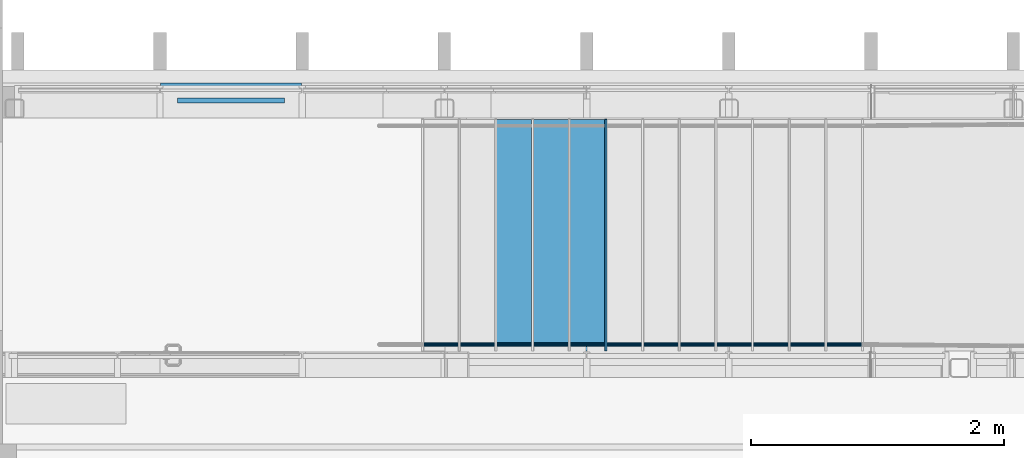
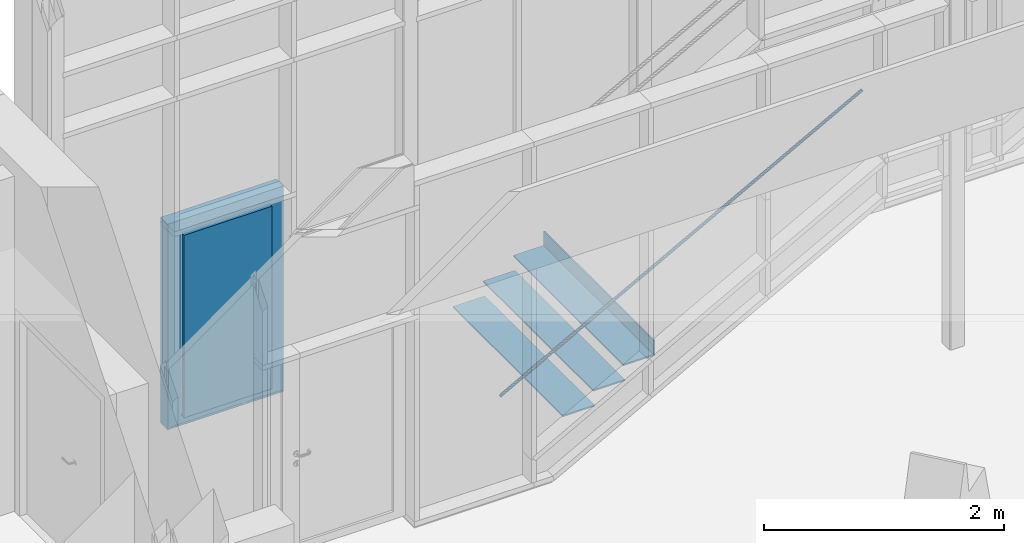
# One storey, part 189 of 301: 7 building element parts, 4 elements without a shape of their own.
"""IFC2X3 building model written with IfcOpenShell, lengths in millimetres."""

from ifc_helpers import new_model, entity, si_unit, converted_unit, derived_unit, money_unit, direction, frame, origin_with_axes, place, context, subcontext, project, spatial, open_shell, faceted_brep, surface_model, material, type_object, element, aggregate, save


model = new_model("IFC2X3")

# Units and contexts
model_context = context("Model", 3, precision=0.01, world=origin_with_axes(), true_north=direction((0.0, 1.0)))
body_context = subcontext(model_context, "Body", "Model", "MODEL_VIEW")
ifc_project = project(units=[si_unit("LENGTHUNIT", "METRE", prefix="MILLI"), si_unit("AREAUNIT", "SQUARE_METRE"), si_unit("VOLUMEUNIT", "CUBIC_METRE"), converted_unit("PLANEANGLEUNIT", "DEGREE", entity("IfcPlaneAngleMeasure", 0.0174532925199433), si_unit("PLANEANGLEUNIT", "RADIAN"), dimensions=[0, 0, 0, 0, 0, 0, 0]), money_unit("EUR"), converted_unit("TIMEUNIT", "Year", entity("IfcTimeMeasure", 31557600.0), si_unit("TIMEUNIT", "SECOND"), dimensions=[0, 0, 1, 0, 0, 0, 0]), si_unit("MASSUNIT", "GRAM", prefix="KILO"), si_unit("THERMODYNAMICTEMPERATUREUNIT", "DEGREE_CELSIUS"), si_unit("LUMINOUSINTENSITYUNIT", "LUMEN"), si_unit("ENERGYUNIT", "JOULE", prefix="MEGA"), derived_unit("THERMALCONDUCTANCEUNIT", [(si_unit("POWERUNIT", "WATT"), 1), (si_unit("LENGTHUNIT", "METRE"), -1), (si_unit("THERMODYNAMICTEMPERATUREUNIT", "KELVIN"), -1)]), derived_unit("SPECIFICHEATCAPACITYUNIT", [(si_unit("ENERGYUNIT", "JOULE"), 1), (si_unit("MASSUNIT", "GRAM", prefix="KILO"), -1), (si_unit("THERMODYNAMICTEMPERATUREUNIT", "KELVIN"), -1)]), derived_unit("MASSDENSITYUNIT", [(si_unit("MASSUNIT", "GRAM", prefix="KILO"), 1), (si_unit("VOLUMEUNIT", "CUBIC_METRE"), -1)])], contexts=[model_context])

# Site, building, storey
site_placement = place(None, frame((0.0, 0.0, 8650.0), z_axis=(0.0, 0.0, 1.0), x_axis=(1.0, 0.0, 0.0)))
site = spatial("IfcSite", under=ifc_project, at=site_placement, Name="43301:001:0844", CompositionType="ELEMENT")
building_placement = place(site_placement, origin_with_axes())
building = spatial("IfcBuilding", under=site, at=building_placement, Name="Kuressaare Ametikooli tuulikute mehaanikute õppekorpus", CompositionType="ELEMENT")
storey_placement = place(building_placement, origin_with_axes())
storey = spatial("IfcBuildingStorey", under=building, at=storey_placement, Name="1.korrus", CompositionType="ELEMENT", Elevation=0.0)

# Curtain wall, door, building element parts
curtain_wall_type = type_object("IfcCurtainWallType", Name="Curtain Wall Type", PredefinedType="NOTDEFINED")
curtain_wall_placement = place(storey_placement, frame((116704.6026822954, 28579.57374875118, 35.00000000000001), z_axis=(0.0, 0.0, 1.0), x_axis=(1.0, 0.0, 0.0)))
curtain_wall = element("IfcCurtainWall", 1, at=curtain_wall_placement, inside=storey, type_object=curtain_wall_type, Name="KF-1.1")
door_style = type_object("IfcDoorStyle", Name="1115 x 2090 x -120", ConstructionType="NOTDEFINED", OperationType="SINGLE_SWING_LEFT", ParameterTakesPrecedence=False, Sizeable=False)
door_placement = place(curtain_wall_placement, frame((-11250.0, 0.0, 1049.999979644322), z_axis=(0.0, 0.0, 1.0), x_axis=(1.0, 0.0, 0.0)))
door = element("IfcDoor", 2, at=door_placement, type_object=door_style, Name="AVU10x23,EI30", OverallHeight=2050.0, OverallWidth=1075.0)
aggregate(curtain_wall, [door])
ifc_material_1 = material(Name="Klaas")
building_element_part_1_placement = place(door_placement, origin_with_axes())
building_element_part_1 = element("IfcBuildingElementPart", 3, at=building_element_part_1_placement, material=ifc_material_1, Name="Klaas", context=body_context, shape_type="Brep", body=[
    faceted_brep([(-422.500009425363, -100.0000000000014, -944.999989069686), (-422.500009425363, -59.99999999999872, -944.999989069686), (422.4999920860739, -59.99999999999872, -944.999989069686), (422.4999920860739, -100.0000000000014, -944.999989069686), (-422.500009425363, -100.0000000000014, 909.999989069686), (-422.500009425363, -59.99999999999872, 909.999989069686), (422.4999920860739, -59.99999999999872, 909.999989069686), (422.4999920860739, -100.0000000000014, 909.999989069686)], [[[0, 1, 2, 3]], [[4, 5, 1, 0]], [[1, 5, 6, 2]], [[3, 2, 6, 7]], [[0, 3, 7, 4]], [[7, 6, 5, 4]]]),
])
ifc_material_2 = material(Name="Aluminium")
building_element_part_2_placement = place(door_placement, origin_with_axes())
building_element_part_2 = element("IfcBuildingElementPart", 4, at=building_element_part_2_placement, material=ifc_material_2, Name="Aluminium", context=body_context, shape_type="SurfaceModel", body=[
    surface_model("IfcShellBasedSurfaceModel", [(537.4999920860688, -57.99999999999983, -1024.999989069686), (537.4999920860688, -57.99999999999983, 1024.999989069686), (492.4999920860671, -57.99999999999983, 979.9999890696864), (492.4999920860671, -57.99999999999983, -1024.999989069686)], [open_shell([[[0, 1, 2, 3]]])]),
    surface_model("IfcShellBasedSurfaceModel", [(-537.5000094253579, -57.99999999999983, 1024.999989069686), (-492.5000094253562, -57.99999999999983, 979.9999890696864), (492.4999920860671, -57.99999999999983, 979.9999890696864), (537.4999920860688, -57.99999999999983, 1024.999989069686)], [open_shell([[[0, 1, 2, 3]]])]),
    surface_model("IfcShellBasedSurfaceModel", [(-537.5000094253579, -57.99999999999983, -1024.999989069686), (-492.5000094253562, -57.99999999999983, -1024.999989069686), (-492.5000094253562, -57.99999999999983, 979.9999890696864), (-537.5000094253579, -57.99999999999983, 1024.999989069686)], [open_shell([[[0, 1, 2, 3]]])]),
    faceted_brep([(537.4999920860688, -57.99999999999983, -1024.999989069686), (537.4999920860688, 21.99999999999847, -1024.999989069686), (537.4999920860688, 21.99999999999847, 1024.999989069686), (537.4999920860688, -57.99999999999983, 1024.999989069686), (502.4999920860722, -57.99999999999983, -1024.999989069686), (502.4999920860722, 21.99999999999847, -1024.999989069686), (502.4999920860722, 21.99999999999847, 989.9999890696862), (502.4999920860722, -57.99999999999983, 989.9999890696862)], [[[0, 1, 2, 3]], [[4, 5, 1, 0]], [[1, 5, 6, 2]], [[3, 2, 6, 7]], [[0, 3, 7, 4]], [[7, 6, 5, 4]]]),
    faceted_brep([(-537.5000094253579, -57.99999999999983, 1024.999989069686), (-537.5000094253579, 21.99999999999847, 1024.999989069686), (-502.5000094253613, 21.99999999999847, 989.9999890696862), (-502.5000094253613, -57.99999999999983, 989.9999890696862), (537.4999920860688, -57.99999999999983, 1024.999989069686), (537.4999920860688, 21.99999999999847, 1024.999989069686), (502.4999920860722, 21.99999999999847, 989.9999890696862), (502.4999920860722, -57.99999999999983, 989.9999890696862)], [[[0, 1, 2, 3]], [[4, 5, 1, 0]], [[1, 5, 6, 2]], [[3, 2, 6, 7]], [[0, 3, 7, 4]], [[7, 6, 5, 4]]]),
    faceted_brep([(-537.5000094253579, -57.99999999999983, -1024.999989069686), (-537.5000094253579, 21.99999999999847, -1024.999989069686), (-502.5000094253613, 21.99999999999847, -1024.999989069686), (-502.5000094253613, -57.99999999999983, -1024.999989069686), (-537.5000094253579, -57.99999999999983, 1024.999989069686), (-537.5000094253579, 21.99999999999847, 1024.999989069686), (-502.5000094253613, 21.99999999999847, 989.9999890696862), (-502.5000094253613, -57.99999999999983, 989.9999890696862)], [[[0, 1, 2, 3]], [[4, 5, 1, 0]], [[1, 5, 6, 2]], [[3, 2, 6, 7]], [[0, 3, 7, 4]], [[7, 6, 5, 4]]]),
    faceted_brep([(-557.4999956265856, -59.99999999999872, -1044.999975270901), (-557.4999956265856, 59.99999999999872, -1044.999975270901), (557.5000095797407, 59.99999999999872, -1044.999975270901), (557.5000095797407, -59.99999999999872, -1044.999975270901), (-537.5000094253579, -59.99999999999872, -1024.999989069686), (-537.5000094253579, 59.99999999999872, -1024.999989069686), (537.4999920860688, 59.99999999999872, -1024.999989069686), (537.4999920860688, -59.99999999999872, -1024.999989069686)], [[[0, 1, 2, 3]], [[4, 5, 1, 0]], [[1, 5, 6, 2]], [[3, 2, 6, 7]], [[0, 3, 7, 4]], [[7, 6, 5, 4]]]),
    faceted_brep([(557.5000095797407, -59.99999999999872, -1044.999975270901), (557.5000095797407, 59.99999999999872, -1044.999975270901), (557.5000095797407, 59.99999999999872, 1044.999975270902), (557.5000095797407, -59.99999999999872, 1044.999975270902), (537.4999920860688, -59.99999999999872, -1024.999989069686), (537.4999920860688, 59.99999999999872, -1024.999989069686), (537.4999920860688, 59.99999999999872, 1024.999989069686), (537.4999920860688, -59.99999999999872, 1024.999989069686)], [[[0, 1, 2, 3]], [[4, 5, 1, 0]], [[1, 5, 6, 2]], [[3, 2, 6, 7]], [[0, 3, 7, 4]], [[7, 6, 5, 4]]]),
    faceted_brep([(557.5000095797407, -59.99999999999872, 1044.999975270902), (557.5000095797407, 59.99999999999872, 1044.999975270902), (-557.4999956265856, 59.99999999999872, 1044.999975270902), (-557.4999956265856, -59.99999999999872, 1044.999975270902), (537.4999920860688, -59.99999999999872, 1024.999989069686), (537.4999920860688, 59.99999999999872, 1024.999989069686), (-537.5000094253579, 59.99999999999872, 1024.999989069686), (-537.5000094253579, -59.99999999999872, 1024.999989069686)], [[[0, 1, 2, 3]], [[4, 5, 1, 0]], [[1, 5, 6, 2]], [[3, 2, 6, 7]], [[0, 3, 7, 4]], [[7, 6, 5, 4]]]),
    faceted_brep([(-557.4999956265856, -59.99999999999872, 1044.999975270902), (-557.4999956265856, 59.99999999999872, 1044.999975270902), (-557.4999956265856, 59.99999999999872, -1044.999975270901), (-557.4999956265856, -59.99999999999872, -1044.999975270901), (-537.5000094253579, -59.99999999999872, 1024.999989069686), (-537.5000094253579, 59.99999999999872, 1024.999989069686), (-537.5000094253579, 59.99999999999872, -1024.999989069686), (-537.5000094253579, -59.99999999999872, -1024.999989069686)], [[[0, 1, 2, 3]], [[4, 5, 1, 0]], [[1, 5, 6, 2]], [[3, 2, 6, 7]], [[0, 3, 7, 4]], [[7, 6, 5, 4]]]),
    faceted_brep([(-422.500009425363, -57.99999999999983, -944.999989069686), (-422.500009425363, -50.00000000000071, -944.999989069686), (-422.500009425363, -50.00000000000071, 909.999989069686), (-422.500009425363, -57.99999999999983, 909.999989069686), (-502.5000094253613, -57.99999999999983, -1024.999989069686), (-502.5000094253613, -50.00000000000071, -1024.999989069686), (-502.5000094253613, -50.00000000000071, 989.9999890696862), (-502.5000094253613, -57.99999999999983, 989.9999890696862)], [[[0, 1, 2, 3]], [[4, 5, 1, 0]], [[1, 5, 6, 2]], [[3, 2, 6, 7]], [[0, 3, 7, 4]], [[7, 6, 5, 4]]]),
    faceted_brep([(502.4999920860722, -57.99999999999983, -1024.999989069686), (502.4999920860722, -50.00000000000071, -1024.999989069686), (502.4999920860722, -50.00000000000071, 989.9999890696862), (502.4999920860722, -57.99999999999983, 989.9999890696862), (422.4999920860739, -57.99999999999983, -944.999989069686), (422.4999920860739, -50.00000000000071, -944.999989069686), (422.4999920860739, -50.00000000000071, 909.999989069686), (422.4999920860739, -57.99999999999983, 909.999989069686)], [[[0, 1, 2, 3]], [[4, 5, 1, 0]], [[1, 5, 6, 2]], [[3, 2, 6, 7]], [[0, 3, 7, 4]], [[7, 6, 5, 4]]]),
    faceted_brep([(502.4999920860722, -57.99999999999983, -1024.999989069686), (502.4999920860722, -50.00000000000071, -1024.999989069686), (422.4999920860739, -50.00000000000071, -944.999989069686), (422.4999920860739, -57.99999999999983, -944.999989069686), (-502.5000094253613, -57.99999999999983, -1024.999989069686), (-502.5000094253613, -50.00000000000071, -1024.999989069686), (-422.500009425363, -50.00000000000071, -944.999989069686), (-422.500009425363, -57.99999999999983, -944.999989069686)], [[[0, 1, 2, 3]], [[4, 5, 1, 0]], [[1, 5, 6, 2]], [[3, 2, 6, 7]], [[0, 3, 7, 4]], [[7, 6, 5, 4]]]),
    faceted_brep([(-502.5000094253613, -57.99999999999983, 989.9999890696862), (-502.5000094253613, -50.00000000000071, 989.9999890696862), (-422.500009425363, -50.00000000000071, 909.999989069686), (-422.500009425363, -57.99999999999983, 909.999989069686), (502.4999920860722, -57.99999999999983, 989.9999890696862), (502.4999920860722, -50.00000000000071, 989.9999890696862), (422.4999920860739, -50.00000000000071, 909.999989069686), (422.4999920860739, -57.99999999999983, 909.999989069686)], [[[0, 1, 2, 3]], [[4, 5, 1, 0]], [[1, 5, 6, 2]], [[3, 2, 6, 7]], [[0, 3, 7, 4]], [[7, 6, 5, 4]]]),
])
aggregate(door, [building_element_part_1, building_element_part_2])

# Railing, building element part
railing_type = type_object("IfcRailingType", Name="Railing Type", PredefinedType="NOTDEFINED")
railing_placement = place(storey_placement, frame((107882.9493746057, 26509.57374875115, 157.6923606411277), z_axis=(0.0, 0.0, 1.0), x_axis=(1.0, 0.0, 0.0)))
railing = element("IfcRailing", 5, at=railing_placement, inside=storey, type_object=railing_type, Name="Piire", PredefinedType="NOTDEFINED")
ifc_material_3 = material(Name="Metall - Teras - Roostevaba")
building_element_part_3_placement = place(railing_placement, origin_with_axes())
building_element_part_3 = element("IfcBuildingElementPart", 6, at=building_element_part_3_placement, material=ifc_material_3, Name="Metall - Teras - Roostevaba", context=body_context, shape_type="Brep", body=[
    faceted_brep([(-917.032179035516, 75.0000000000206, 684.9999999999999), (-917.6945623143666, 74.77211629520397, 687.6047226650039), (2565.300881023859, 74.77211629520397, 2581.541236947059), (2566.545180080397, 75.0000000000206, 2579.25294063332), (-916.3697957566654, 74.77211629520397, 682.395277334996), (-915.7275386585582, 74.09538931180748, 679.869697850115), (-915.1249223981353, 72.9903810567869, 677.5), (-914.5802571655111, 71.49066664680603, 675.3581858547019), (-914.1100923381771, 69.64181414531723, 673.5093333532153), (-913.7287136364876, 67.50000000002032, 672.0096189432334), (-913.4477090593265, 65.13030214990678, 670.9046106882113), (-913.2756167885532, 62.60472266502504, 670.2278837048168), (-913.2176657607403, 60.00000000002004, 669.9999999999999), (-913.2756167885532, 57.39527733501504, 670.2278837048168), (-913.4477090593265, 54.86969785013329, 670.9046106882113), (-913.7287136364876, 52.50000000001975, 672.0096189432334), (-914.1100923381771, 50.35818585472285, 673.5093333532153), (-914.5802571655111, 48.50933335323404, 675.3581858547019), (-915.1249223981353, 47.00961894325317, 677.5), (-915.7275386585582, 45.90461068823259, 679.869697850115), (-916.3697957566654, 45.2278837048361, 682.395277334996), (-917.032179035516, 45.00000000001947, 684.9999999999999), (-917.6945623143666, 45.2278837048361, 687.6047226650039), (-918.3368194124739, 45.90461068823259, 690.130302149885), (-918.939435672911, 47.00961894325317, 692.5), (-919.484100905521, 48.50933335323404, 694.641814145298), (-919.954265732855, 50.35818585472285, 696.4906666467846), (-920.3356444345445, 52.50000000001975, 697.9903810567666), (-920.6166490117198, 54.86969785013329, 699.0953893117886), (-920.7887412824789, 57.39527733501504, 699.7721162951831), (-920.8466923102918, 60.00000000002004, 700.0), (-920.7887412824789, 62.60472266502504, 699.7721162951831), (-920.6166490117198, 65.13030214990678, 699.0953893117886), (-920.3356444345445, 67.50000000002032, 697.9903810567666), (-919.954265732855, 69.64181414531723, 696.4906666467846), (-919.484100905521, 71.49066664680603, 694.641814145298), (-918.939435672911, 72.9903810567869, 692.5), (-918.3368194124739, 74.09538931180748, 690.130302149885), (-917.032179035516, 65.00000000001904, 684.9999999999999), (-917.2529734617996, 64.92403876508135, 685.8682408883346), (-917.4670591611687, 64.698463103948, 686.7101007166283), (-917.6679312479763, 64.33012701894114, 687.5), (-917.8494863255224, 63.83022221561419, 688.2139380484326), (-918.0062079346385, 63.21393804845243, 688.8302222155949), (-918.1333341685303, 62.50000000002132, 689.3301270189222), (-918.227002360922, 61.71010071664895, 689.6984631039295), (-918.2843664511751, 60.86824088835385, 689.924038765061), (-918.3036834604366, 60.00000000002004, 690.0), (-918.2843664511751, 59.13175911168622, 689.924038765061), (-918.227002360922, 58.28989928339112, 689.6984631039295), (-918.1333341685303, 57.50000000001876, 689.3301270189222), (-918.0062079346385, 56.78606195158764, 688.8302222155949), (-917.8494863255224, 56.16977778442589, 688.2139380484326), (-917.6679312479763, 55.66987298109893, 687.5), (-917.4670591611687, 55.30153689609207, 686.7101007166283), (-917.2529734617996, 55.07596123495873, 685.8682408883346), (-917.032179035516, 55.00000000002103, 684.9999999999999), (-916.8113846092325, 55.07596123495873, 684.1317591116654), (-916.5972989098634, 55.30153689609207, 683.2898992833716), (-916.3964268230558, 55.66987298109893, 682.5), (-916.2148717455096, 56.16977778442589, 681.7860619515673), (-916.0581501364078, 56.78606195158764, 681.169777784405), (-915.9310239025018, 57.50000000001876, 680.6698729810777), (-915.8373557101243, 58.28989928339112, 680.3015368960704), (-915.779991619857, 59.13175911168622, 680.075961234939), (-915.7606746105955, 60.00000000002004, 679.9999999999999), (-915.779991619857, 60.86824088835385, 680.075961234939), (-915.8373557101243, 61.71010071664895, 680.3015368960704), (-915.9310239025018, 62.50000000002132, 680.6698729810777), (-916.0581501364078, 63.21393804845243, 681.169777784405), (-916.2148717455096, 63.83022221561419, 681.7860619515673), (-916.3964268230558, 64.33012701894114, 682.5), (-916.5972989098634, 64.698463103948, 683.2898992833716), (-916.8113846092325, 64.92403876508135, 684.1317591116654), (2564.094389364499, 74.09538931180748, 2583.760004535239), (2562.962363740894, 72.9903810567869, 2585.841827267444), (2561.939200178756, 71.49066664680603, 2587.723450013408), (2561.055986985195, 69.64181414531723, 2589.347700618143), (2560.339560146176, 67.50000000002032, 2590.665227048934), (2559.811687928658, 65.13030214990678, 2591.635996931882), (2559.488409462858, 62.60472266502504, 2592.230513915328), (2559.379547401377, 60.00000000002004, 2592.430713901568), (2559.488409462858, 57.39527733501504, 2592.230513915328), (2559.811687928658, 54.86969785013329, 2591.635996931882), (2560.339560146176, 52.50000000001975, 2590.665227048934), (2561.055986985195, 50.35818585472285, 2589.347700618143), (2561.939200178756, 48.50933335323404, 2587.723450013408), (2562.962363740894, 47.00961894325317, 2585.841827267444), (2564.094389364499, 45.90461068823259, 2583.760004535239), (2565.300881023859, 45.2278837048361, 2581.541236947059), (2566.545180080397, 45.00000000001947, 2579.25294063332), (2567.789479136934, 45.2278837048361, 2576.96464431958), (2568.995970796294, 45.90461068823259, 2574.7458767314), (2570.127996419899, 47.00961894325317, 2572.664053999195), (2571.151159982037, 48.50933335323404, 2570.782431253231), (2572.034373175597, 50.35818585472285, 2569.158180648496), (2572.750800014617, 52.50000000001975, 2567.840654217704), (2573.278672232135, 54.86969785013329, 2566.869884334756), (2573.601950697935, 57.39527733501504, 2566.275367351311), (2573.710812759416, 60.00000000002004, 2566.075167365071), (2573.601950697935, 62.60472266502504, 2566.275367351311), (2573.278672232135, 65.13030214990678, 2566.869884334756), (2572.750800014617, 67.50000000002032, 2567.840654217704), (2572.034373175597, 69.64181414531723, 2569.158180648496), (2571.151159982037, 71.49066664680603, 2570.782431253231), (2570.127996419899, 72.9903810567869, 2572.664053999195), (2568.995970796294, 74.09538931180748, 2574.7458767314), (2567.789479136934, 74.77211629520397, 2576.96464431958), (2566.545180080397, 65.00000000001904, 2579.25294063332), (2566.959946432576, 64.92403876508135, 2578.490175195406), (2567.362110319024, 64.698463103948, 2577.750585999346), (2567.739452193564, 64.33012701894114, 2577.056645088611), (2568.080506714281, 63.83022221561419, 2576.429437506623), (2568.37491111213, 63.21393804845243, 2575.888020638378), (2568.613720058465, 62.50000000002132, 2575.448845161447), (2568.78967746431, 61.71010071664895, 2575.125255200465), (2568.897436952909, 60.86824088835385, 2574.92708287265), (2568.933724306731, 60.00000000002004, 2574.860349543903), (2568.897436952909, 59.13175911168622, 2574.92708287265), (2568.78967746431, 58.28989928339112, 2575.125255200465), (2568.613720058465, 57.50000000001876, 2575.448845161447), (2568.37491111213, 56.78606195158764, 2575.888020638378), (2568.080506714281, 56.16977778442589, 2576.429437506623), (2567.739452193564, 55.66987298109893, 2577.056645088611), (2567.362110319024, 55.30153689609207, 2577.750585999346), (2566.959946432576, 55.07596123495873, 2578.490175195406), (2566.545180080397, 55.00000000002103, 2579.25294063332), (2566.130413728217, 55.07596123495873, 2580.015706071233), (2565.728249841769, 55.30153689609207, 2580.755295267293), (2565.350907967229, 55.66987298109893, 2581.449236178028), (2565.009853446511, 56.16977778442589, 2582.076443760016), (2564.715449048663, 56.78606195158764, 2582.617860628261), (2564.476640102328, 57.50000000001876, 2583.057036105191), (2564.300682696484, 58.28989928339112, 2583.380626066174), (2564.192923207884, 59.13175911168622, 2583.578798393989), (2564.156635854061, 60.00000000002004, 2583.645531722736), (2564.192923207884, 60.86824088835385, 2583.578798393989), (2564.300682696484, 61.71010071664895, 2583.380626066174), (2564.476640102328, 62.50000000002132, 2583.057036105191), (2564.715449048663, 63.21393804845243, 2582.617860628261), (2565.009853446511, 63.83022221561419, 2582.076443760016), (2565.350907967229, 64.33012701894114, 2581.449236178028), (2565.728249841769, 64.698463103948, 2580.755295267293), (2566.130413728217, 64.92403876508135, 2580.015706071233)], [[[0, 1, 2, 3]], [[0, 4, 5, 6, 7, 8, 9, 10, 11, 12, 13, 14, 15, 16, 17, 18, 19, 20, 21, 22, 23, 24, 25, 26, 27, 28, 29, 30, 31, 32, 33, 34, 35, 36, 37, 1], [38, 39, 40, 41, 42, 43, 44, 45, 46, 47, 48, 49, 50, 51, 52, 53, 54, 55, 56, 57, 58, 59, 60, 61, 62, 63, 64, 65, 66, 67, 68, 69, 70, 71, 72, 73]], [[1, 37, 74, 2]], [[3, 2, 74, 75, 76, 77, 78, 79, 80, 81, 82, 83, 84, 85, 86, 87, 88, 89, 90, 91, 92, 93, 94, 95, 96, 97, 98, 99, 100, 101, 102, 103, 104, 105, 106, 107], [108, 109, 110, 111, 112, 113, 114, 115, 116, 117, 118, 119, 120, 121, 122, 123, 124, 125, 126, 127, 128, 129, 130, 131, 132, 133, 134, 135, 136, 137, 138, 139, 140, 141, 142, 143]], [[4, 0, 3, 107]], [[5, 4, 107, 106]], [[6, 5, 106, 105]], [[7, 6, 105, 104]], [[8, 7, 104, 103]], [[9, 8, 103, 102]], [[10, 9, 102, 101]], [[11, 10, 101, 100]], [[12, 11, 100, 99]], [[13, 12, 99, 98]], [[14, 13, 98, 97]], [[15, 14, 97, 96]], [[16, 15, 96, 95]], [[17, 16, 95, 94]], [[18, 17, 94, 93]], [[19, 18, 93, 92]], [[20, 19, 92, 91]], [[21, 20, 91, 90]], [[22, 21, 90, 89]], [[23, 22, 89, 88]], [[24, 23, 88, 87]], [[25, 24, 87, 86]], [[26, 25, 86, 85]], [[27, 26, 85, 84]], [[28, 27, 84, 83]], [[29, 28, 83, 82]], [[30, 29, 82, 81]], [[31, 30, 81, 80]], [[32, 31, 80, 79]], [[33, 32, 79, 78]], [[34, 33, 78, 77]], [[35, 34, 77, 76]], [[36, 35, 76, 75]], [[37, 36, 75, 74]], [[39, 38, 108, 143]], [[40, 39, 143, 142]], [[41, 40, 142, 141]], [[42, 41, 141, 140]], [[43, 42, 140, 139]], [[44, 43, 139, 138]], [[45, 44, 138, 137]], [[46, 45, 137, 136]], [[47, 46, 136, 135]], [[48, 47, 135, 134]], [[49, 48, 134, 133]], [[50, 49, 133, 132]], [[51, 50, 132, 131]], [[52, 51, 131, 130]], [[53, 52, 130, 129]], [[54, 53, 129, 128]], [[55, 54, 128, 127]], [[56, 55, 127, 126]], [[57, 56, 126, 125]], [[58, 57, 125, 124]], [[59, 58, 124, 123]], [[60, 59, 123, 122]], [[61, 60, 122, 121]], [[62, 61, 121, 120]], [[63, 62, 120, 119]], [[64, 63, 119, 118]], [[65, 64, 118, 117]], [[66, 65, 117, 116]], [[67, 66, 116, 115]], [[68, 67, 115, 114]], [[69, 68, 114, 113]], [[70, 69, 113, 112]], [[71, 70, 112, 111]], [[72, 71, 111, 110]], [[73, 72, 110, 109]], [[38, 73, 109, 108]]]),
])
aggregate(railing, [building_element_part_3])

# Stair, building element parts
stair_placement = place(storey_placement, frame((106962.1026822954, 28349.57374875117, 5.294881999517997e-05), z_axis=(0.0, 0.0, 1.0), x_axis=(1.0, 0.0, 0.0)))
stair = element("IfcStair", 7, at=stair_placement, inside=storey, Name="Trepp1", ShapeType="NOTDEFINED")
ifc_material_4 = material(Name="GENEERILINE - SISEMINE VIIMISTLUS")
building_element_part_4_placement = place(stair_placement, origin_with_axes())
building_element_part_4 = element("IfcBuildingElementPart", 8, at=building_element_part_4_placement, material=ifc_material_4, Name="GENEERILINE - SISEMINE VIIMISTLUS", context=body_context, shape_type="Brep", body=[
    faceted_brep([(1450.000000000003, -1829.999999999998, 931.1538461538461), (1465.000000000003, -1829.999999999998, 931.1538461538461), (1465.000000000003, 0.0, 931.1538461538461), (1450.000000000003, 0.0, 931.1538461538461), (1450.000000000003, -1829.999999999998, 788.4615384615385), (1465.000000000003, -1829.999999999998, 788.4615384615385), (1465.000000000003, 0.0, 788.4615384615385), (1450.000000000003, 0.0, 788.4615384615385)], [[[0, 1, 2, 3]], [[0, 4, 5, 1]], [[1, 5, 6, 2]], [[3, 2, 6, 7]], [[4, 0, 3, 7]], [[5, 4, 7, 6]]]),
])
building_element_part_5_placement = place(stair_placement, origin_with_axes())
building_element_part_5 = element("IfcBuildingElementPart", 9, at=building_element_part_5_placement, material=ifc_material_4, Name="GENEERILINE - SISEMINE VIIMISTLUS", context=body_context, shape_type="Brep", body=[
    faceted_brep([(579.9999999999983, 0.0, 458.076923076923), (579.9999999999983, -1829.999999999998, 458.076923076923), (579.9999999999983, -1829.999999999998, 473.076923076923), (579.9999999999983, 0.0, 473.076923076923), (885.0000000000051, 0.0, 458.076923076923), (885.0000000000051, -1829.999999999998, 458.076923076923), (885.0000000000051, -1829.999999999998, 473.076923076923), (885.0000000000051, 0.0, 473.076923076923)], [[[0, 1, 2, 3]], [[0, 4, 5, 1]], [[1, 5, 6, 2]], [[3, 2, 6, 7]], [[4, 0, 3, 7]], [[5, 4, 7, 6]]]),
])
building_element_part_6_placement = place(stair_placement, origin_with_axes())
building_element_part_6 = element("IfcBuildingElementPart", 10, at=building_element_part_6_placement, material=ifc_material_4, Name="GENEERILINE - SISEMINE VIIMISTLUS", context=body_context, shape_type="Brep", body=[
    faceted_brep([(870.0000000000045, 0.0, 615.7692307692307), (870.0000000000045, -1829.999999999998, 615.7692307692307), (870.0000000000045, -1829.999999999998, 630.7692307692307), (870.0000000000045, 0.0, 630.7692307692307), (1175.000000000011, 0.0, 615.7692307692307), (1175.000000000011, -1829.999999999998, 615.7692307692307), (1175.000000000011, -1829.999999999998, 630.7692307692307), (1175.000000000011, 0.0, 630.7692307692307)], [[[0, 1, 2, 3]], [[0, 4, 5, 1]], [[1, 5, 6, 2]], [[3, 2, 6, 7]], [[4, 0, 3, 7]], [[5, 4, 7, 6]]]),
])
building_element_part_7_placement = place(stair_placement, origin_with_axes())
building_element_part_7 = element("IfcBuildingElementPart", 11, at=building_element_part_7_placement, material=ifc_material_4, Name="GENEERILINE - SISEMINE VIIMISTLUS", context=body_context, shape_type="Brep", body=[
    faceted_brep([(1159.999999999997, 0.0, 773.4615384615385), (1159.999999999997, -1829.999999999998, 773.4615384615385), (1159.999999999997, -1829.999999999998, 788.4615384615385), (1159.999999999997, 0.0, 788.4615384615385), (1465.000000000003, 0.0, 773.4615384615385), (1465.000000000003, -1829.999999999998, 773.4615384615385), (1465.000000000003, -1829.999999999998, 788.4615384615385), (1465.000000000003, 0.0, 788.4615384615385)], [[[0, 1, 2, 3]], [[0, 4, 5, 1]], [[1, 5, 6, 2]], [[3, 2, 6, 7]], [[4, 0, 3, 7]], [[5, 4, 7, 6]]]),
])
aggregate(stair, [building_element_part_4, building_element_part_5, building_element_part_6, building_element_part_7])

save(model, "model.ifc")
